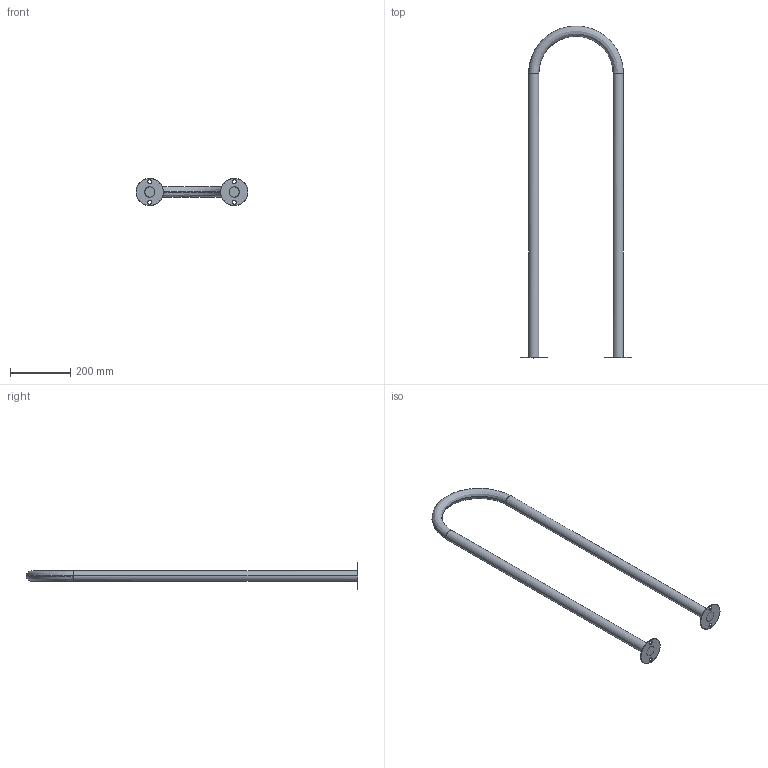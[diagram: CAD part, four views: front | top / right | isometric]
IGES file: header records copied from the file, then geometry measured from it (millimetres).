
Start section:  PTC IGES file: 52398494.igs
Global section: file name: 52398494.igs; native system: Creo Parametric by PTC Inc.; preprocessor: 2022162; author: wep; organization: Unknown; date: 20250721.085626; units: millimetre
Bounding box: 370 x 1099.98 x 89.93 mm (x, y, z)
Surface area: 272030.3 mm2 (no closed solid volume)
Topology: 0 solids, 0 shells, 22 faces, 100 edges, 100 vertices
Faces by surface type: revolution 18, bspline 4
